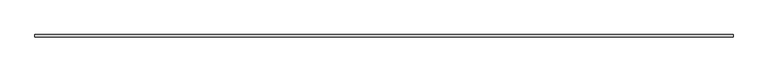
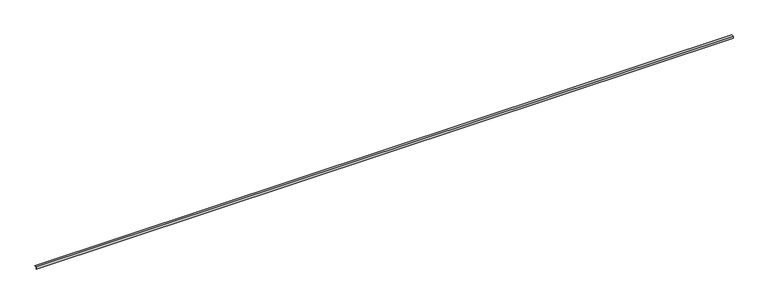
"""IFC4 building model written with IfcOpenShell, lengths in millimetres: beam geometry,  105777 :  105777."""

from ifc_helpers import new_model, si_unit, frame, origin, place, context, project, spatial, polyline, outline, extrude, source, transform, mapped, element, save


def beam_3c5574f7(model_context):
    return source(origin(), model_context, "Body", "SweptSolid", [
        extrude(outline(polyline([(-35711.5, 8110.0), (-35661.5, 8110.0), (-35661.5, 8106.0), (-35700.5, 8106.0), (-35707.5, 8099.0), (-35707.5, 8060.0), (-35711.5, 8060.0), (-35711.5, 8110.0)])), frame((-180.0000001, 0.0, 0.0), z_axis=(1.0, 0.0, 0.0), x_axis=(0.0, 1.0, 0.0)), (0.0, 0.0, 1.0), 15570.0),
    ])


if __name__ == "__main__":
    model = new_model("IFC4")
    model_context = context("Model", 3, world=origin())
    ifc_project = project(units=[si_unit("LENGTHUNIT", "METRE", prefix="MILLI")], contexts=[model_context])
    site = spatial("IfcSite", under=ifc_project)
    building = spatial("IfcBuilding", under=site)
    placement = place(None, origin())
    beam_shape = beam_3c5574f7(model_context)
    element("IfcBeam", 1, ObjectType=" 105777 :  105777", at=placement, inside=building, context=model_context, shape_type="MappedRepresentation", body=[
        mapped(beam_shape, transform((0.0, 0.0, 0.0), x_axis=(1.0, 0.0, 0.0), y_axis=(0.0, 1.0, 0.0), z_axis=(0.0, 0.0, 1.0))),
    ])
    save(model, "model.ifc")
